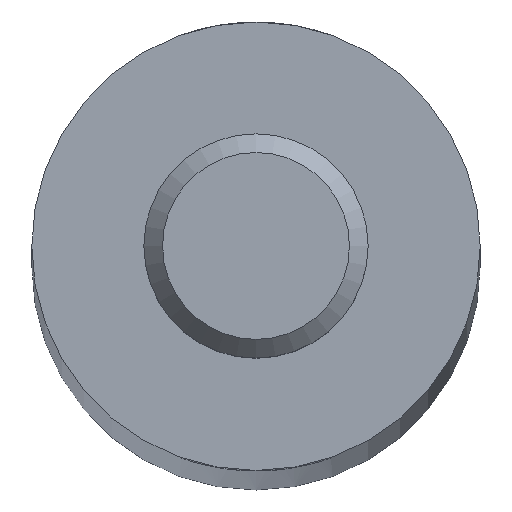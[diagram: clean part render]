
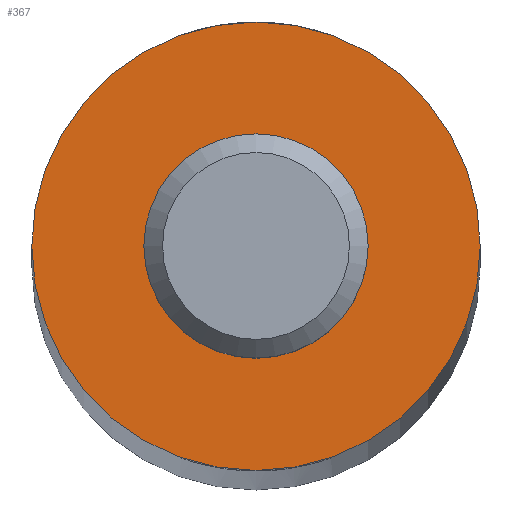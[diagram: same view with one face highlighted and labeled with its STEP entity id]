
A CAD part, top view. The second image highlights one B-rep face of the part: STEP entity #367.
In plain terms, the highlighted planar face has unit normal (0, 0, 1).
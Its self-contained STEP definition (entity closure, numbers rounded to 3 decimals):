
#77=CARTESIAN_POINT('',(6.,0.,300.0));
#78=VERTEX_POINT('',#77);
#79=CARTESIAN_POINT('',(0.0,0.0,300.0));
#80=DIRECTION('',(0.0,0.0,-1.0));
#81=DIRECTION('',(-1.0,0.0,0.0));
#82=AXIS2_PLACEMENT_3D('',#79,#80,#81);
#83=CIRCLE('',#82,6.);
#84=EDGE_CURVE('',#78,#78,#83,.T.);
#332=CARTESIAN_POINT('',(2.5,0.,300.0));
#333=VERTEX_POINT('',#332);
#334=CARTESIAN_POINT('',(0.0,0.0,300.0));
#335=DIRECTION('',(0.0,0.0,1.0));
#336=DIRECTION('',(-1.0,0.0,0.0));
#337=AXIS2_PLACEMENT_3D('',#334,#335,#336);
#338=CIRCLE('',#337,2.5);
#339=EDGE_CURVE('',#333,#333,#338,.T.);
#356=CARTESIAN_POINT('',(0.0,0.0,300.0));
#357=DIRECTION('',(0.0,0.0,1.0));
#358=DIRECTION('',(1.0,0.0,0.0));
#359=AXIS2_PLACEMENT_3D('',#356,#357,#358);
#360=PLANE('',#359);
#361=ORIENTED_EDGE('',*,*,#84,.F.);
#362=EDGE_LOOP('',(#361));
#363=FACE_OUTER_BOUND('',#362,.T.);
#364=ORIENTED_EDGE('',*,*,#339,.F.);
#365=EDGE_LOOP('',(#364));
#366=FACE_BOUND('',#365,.T.);
#367=ADVANCED_FACE('',(#363,#366),#360,.T.);
